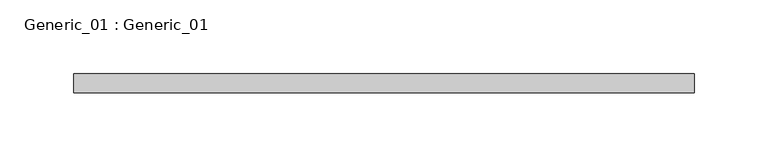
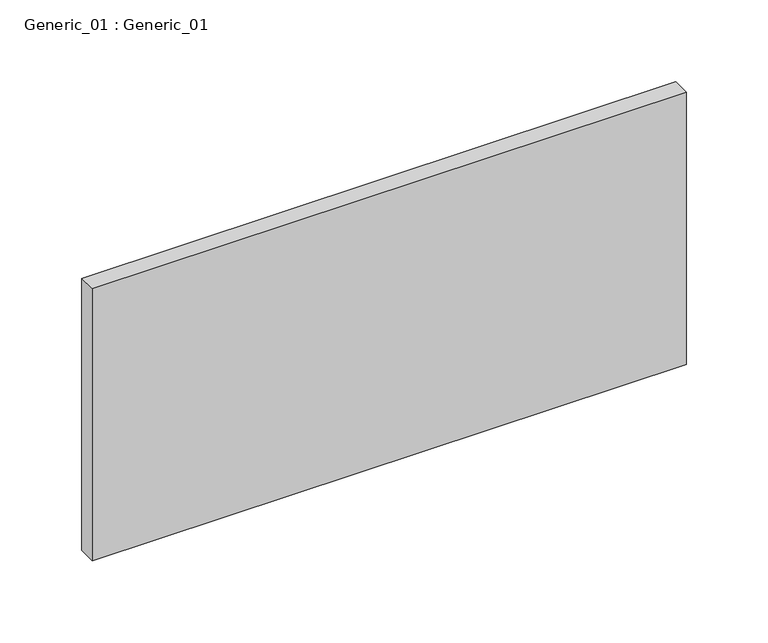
"""IFC4 building model written with IfcOpenShell, lengths in millimetres: proxy geometry, Generic_01 : Generic_01."""

from ifc_helpers import new_model, si_unit, origin, origin_with_axes, place, context, project, spatial, polyline, outline, extrude, source, transform, mapped, element, save


def generic_01_generic_01_19449866(model_context):
    return source(origin(), model_context, "Body", "SweptSolid", [
        extrude(outline(polyline([(209.55, 0.0), (209.55, -12.7), (-209.55, -12.7), (-209.55, 0.0), (209.55, 0.0)])), origin_with_axes(), (0.0, 0.0, 1.0), 203.2),
    ])


if __name__ == "__main__":
    model = new_model("IFC4")
    model_context = context("Model", 3, world=origin())
    ifc_project = project(units=[si_unit("LENGTHUNIT", "METRE", prefix="MILLI")], contexts=[model_context])
    site = spatial("IfcSite", under=ifc_project)
    building = spatial("IfcBuilding", under=site)
    placement = place(None, origin())
    generic_01_generic_01_shape = generic_01_generic_01_19449866(model_context)
    element("IfcBuildingElementProxy", 1, Name="Generic_01 : Generic_01", ObjectType="Generic_01 : Generic_01", at=placement, inside=building, context=model_context, shape_type="MappedRepresentation", body=[
        mapped(generic_01_generic_01_shape, transform((0.0, 0.0, 0.0), x_axis=(1.0, 0.0, 0.0), y_axis=(0.0, 1.0, 0.0), z_axis=(0.0, 0.0, 1.0))),
    ])
    save(model, "model.ifc")
